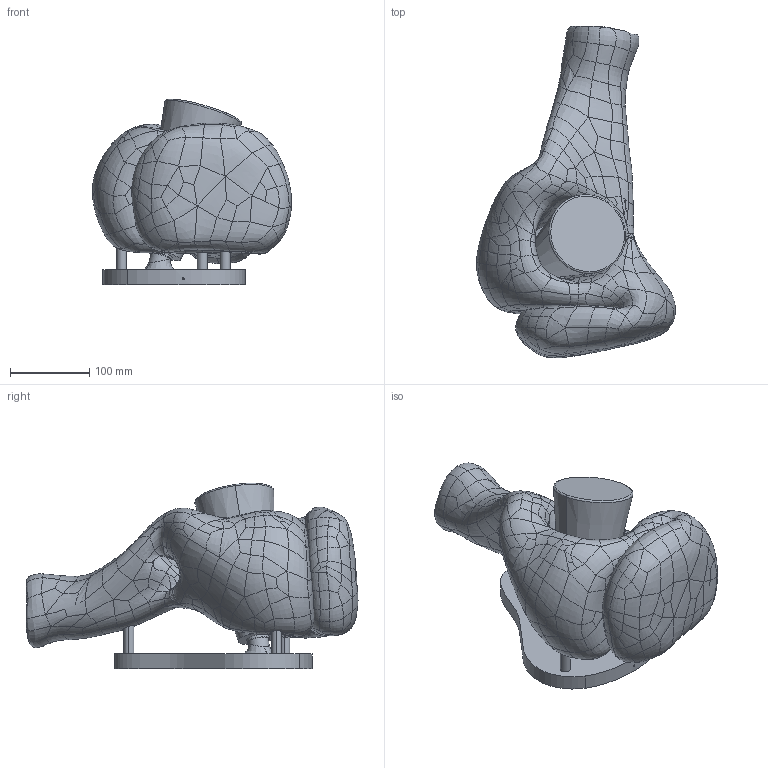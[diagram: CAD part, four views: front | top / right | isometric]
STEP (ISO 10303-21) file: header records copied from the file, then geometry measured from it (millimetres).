
FILE_DESCRIPTION (( 'STEP AP214' ), '1' );
FILE_NAME ('Anna Karlin - Squidge Sconce.STEP', '2026-05-06T18:49:00', ( '' ), ( '' ), 'SwSTEP 2.0', 'SolidWorks 2023', '' );
FILE_SCHEMA (( 'AUTOMOTIVE_DESIGN' ));
Length unit declared in the file: inch
Products named in the file (11): GSS.MOUNTING-PEG_No Grooves; SP.GLB.CLLR-2_Long; UNI-XB-CLEAT_Rev1; GSS.MOUNTING-PEG-2_No Grooves; EAR.GLASS; Uni Cleat Assembly_Squidge; Glass Squidge Final - Left - HR; Anna Karlin - Squidge Sconce; GSS.Backplate-Assembly; UNI-XB-CLEAT_Ext1_Long; GSS.BACKPLATE-2
Assembly tree (11 placements, depth 3):
  Anna Karlin - Squidge Sconce
    EAR.GLASS
    SP.GLB.CLLR-2_Long
    GSS.Backplate-Assembly
      GSS.BACKPLATE-2
      GSS.MOUNTING-PEG_No Grooves  x2
      GSS.MOUNTING-PEG-2_No Grooves
    Uni Cleat Assembly_Squidge
      UNI-XB-CLEAT_Rev1
      UNI-XB-CLEAT_Ext1_Long
    Glass Squidge Final - Left - HR
Bounding box: 251.79 x 420 x 234.99 mm (x, y, z)
Volume: 5644830.6 mm3; surface area: 507665.3 mm2
Topology: 10 solids, 10 shells, 1014 faces, 2235 edges, 1239 vertices
Faces by surface type: bspline 784, cylinder 137, plane 53, cone 24, torus 16
Entity records: 179147 total; most frequent: CARTESIAN_POINT 162770, ORIENTED_EDGE 4422, EDGE_CURVE 2211, B_SPLINE_CURVE_WITH_KNOTS 1652, VERTEX_POINT 1228, DIRECTION 1199, EDGE_LOOP 1059, FACE_OUTER_BOUND 1004
